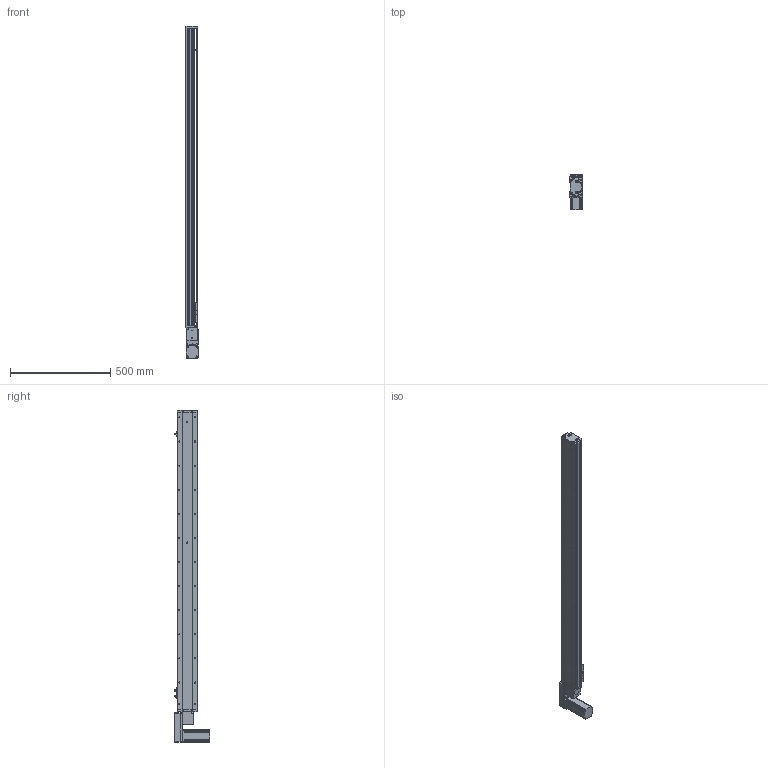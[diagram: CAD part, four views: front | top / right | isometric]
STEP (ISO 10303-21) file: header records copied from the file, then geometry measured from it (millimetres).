
FILE_DESCRIPTION (( 'STEP AP214' ), '1' );
FILE_NAME ('KSD100B-S1300-MLB-CM.STEP', '2019-08-31T02:18:56', ( '微软用户' ), ( '微软中国' ), 'SwSTEP 2.0', 'SolidWorks 2014', '' );
FILE_SCHEMA (( 'AUTOMOTIVE_DESIGN' ));
Length unit declared in the file: millimetre
Products named in the file (12): 悵誘欶奻狟殏; 100宽马达安装板连板上下折丝杆同步带; 台达ECMA－C20604AS伺服电机; U倰嫖萇EEㄜSX672; 覜茼え100遵圉猾敕; 100宽防尘板1300行程-同步带; 100宽马达安装板同步带左; 100宽同步带安装板半封闭; 100宽马达安装板同步带; 100遵傷啣肮祭湍; 100宽底板半封闭同步带1300行程; KSD100B-S1300-MLB-CM
Assembly tree (13 placements, depth 2):
  KSD100B-S1300-MLB-CM
    100宽底板半封闭同步带1300行程
    100遵傷啣肮祭湍
    100宽马达安装板同步带
    100宽同步带安装板半封闭
    100宽马达安装板同步带左
    100宽防尘板1300行程-同步带
    覜茼え100遵圉猾敕
    U倰嫖萇EEㄜSX672  x3
    台达ECMA－C20604AS伺服电机
    100宽马达安装板连板上下折丝杆同步带
    悵誘欶奻狟殏
Bounding box: 61 x 174.7 x 1653 mm (x, y, z)
Volume: 3404929.6 mm3; surface area: 1147931.7 mm2
Topology: 14 solids, 14 shells, 1563 faces, 4418 edges, 2797 vertices
Faces by surface type: cylinder 801, plane 603, cone 159
Entity records: 56527 total; most frequent: CARTESIAN_POINT 11672, DIRECTION 7686, ORIENTED_EDGE 7424, EDGE_CURVE 3712, AXIS2_PLACEMENT_3D 2821, VERTEX_POINT 2421, LINE 2044, VECTOR 2044
